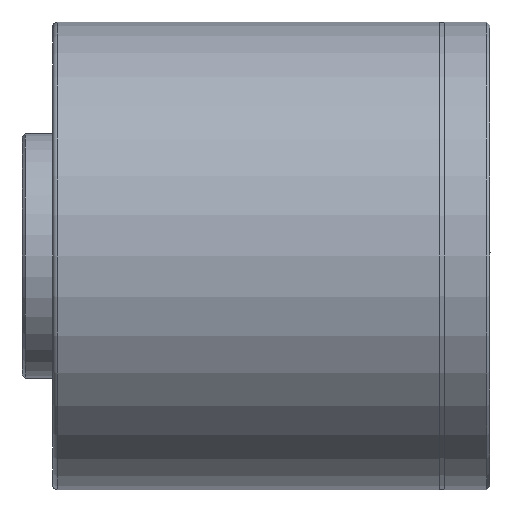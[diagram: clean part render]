
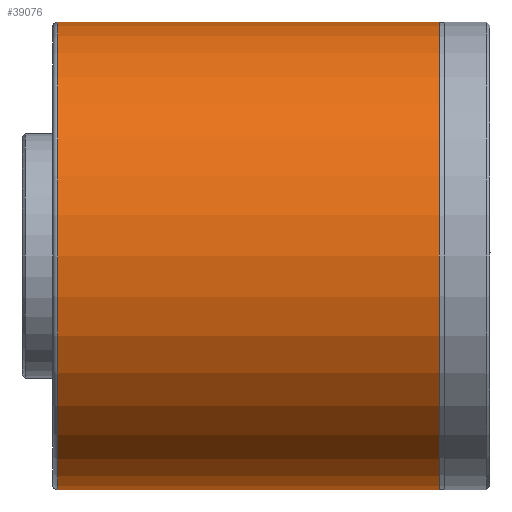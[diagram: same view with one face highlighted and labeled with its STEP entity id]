
A CAD part, left-side view. The second image highlights one B-rep face of the part: STEP entity #39076.
In plain terms, the highlighted cylindrical face has radius 23 mm (diameter 46 mm), a partial arc.
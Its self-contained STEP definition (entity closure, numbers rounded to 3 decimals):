
#2514 = CARTESIAN_POINT ( 'NONE',  ( 0., 23., 0. ) ) ;
#3013 = LINE ( 'NONE', #52733, #8752 ) ;
#3361 = EDGE_CURVE ( 'NONE', #25314, #48359, #52830, .T. ) ;
#5168 = VECTOR ( 'NONE', #35902, 1000. ) ;
#5244 = CARTESIAN_POINT ( 'NONE',  ( 0., -18., 0. ) ) ;
#5247 = AXIS2_PLACEMENT_3D ( 'NONE', #5244, #30523, #30800 ) ;
#6733 = DIRECTION ( 'NONE',  ( 0., -1., 0. ) ) ;
#7255 = ORIENTED_EDGE ( 'NONE', *, *, #27065, .T. ) ;
#8752 = VECTOR ( 'NONE', #23573, 1000. ) ;
#8810 = CIRCLE ( 'NONE', #5247, 23. ) ;
#11402 = EDGE_CURVE ( 'NONE', #53296, #12559, #3013, .T. ) ;
#11685 = FACE_OUTER_BOUND ( 'NONE', #33184, .T. ) ;
#12559 = VERTEX_POINT ( 'NONE', #49917 ) ;
#12644 = ORIENTED_EDGE ( 'NONE', *, *, #40603, .T. ) ;
#15431 = CARTESIAN_POINT ( 'NONE',  ( 0., 19.5, 23. ) ) ;
#18630 = ORIENTED_EDGE ( 'NONE', *, *, #11402, .F. ) ;
#18677 = DIRECTION ( 'NONE',  ( 0., 0., 1. ) ) ;
#20615 = CARTESIAN_POINT ( 'NONE',  ( 0., -18., 23. ) ) ;
#23573 = DIRECTION ( 'NONE',  ( 0., 1., 0. ) ) ;
#25314 = VERTEX_POINT ( 'NONE', #20615 ) ;
#26051 = AXIS2_PLACEMENT_3D ( 'NONE', #2514, #36407, #53330 ) ;
#27065 = EDGE_CURVE ( 'NONE', #53296, #25314, #8810, .T. ) ;
#27609 = AXIS2_PLACEMENT_3D ( 'NONE', #32274, #6733, #18677 ) ;
#28519 = CIRCLE ( 'NONE', #27609, 23. ) ;
#28873 = ORIENTED_EDGE ( 'NONE', *, *, #3361, .T. ) ;
#30523 = DIRECTION ( 'NONE',  ( 0., 1., 0. ) ) ;
#30800 = DIRECTION ( 'NONE',  ( 0., 0., 1. ) ) ;
#32005 = CARTESIAN_POINT ( 'NONE',  ( 0., 23., 23. ) ) ;
#32274 = CARTESIAN_POINT ( 'NONE',  ( 0., 19.5, 0. ) ) ;
#33184 = EDGE_LOOP ( 'NONE', ( #18630, #7255, #28873, #12644 ) ) ;
#35902 = DIRECTION ( 'NONE',  ( 0., 1., 0. ) ) ;
#36407 = DIRECTION ( 'NONE',  ( 0., 1., 0. ) ) ;
#39076 = ADVANCED_FACE ( 'NONE', ( #11685 ), #42378, .T. ) ;
#40603 = EDGE_CURVE ( 'NONE', #48359, #12559, #28519, .T. ) ;
#42378 = CYLINDRICAL_SURFACE ( 'NONE', #26051, 23. ) ;
#48359 = VERTEX_POINT ( 'NONE', #15431 ) ;
#49917 = CARTESIAN_POINT ( 'NONE',  ( 0., 19.5, -23. ) ) ;
#50370 = CARTESIAN_POINT ( 'NONE',  ( 0., -18., -23. ) ) ;
#52733 = CARTESIAN_POINT ( 'NONE',  ( 0., 23., -23. ) ) ;
#52830 = LINE ( 'NONE', #32005, #5168 ) ;
#53296 = VERTEX_POINT ( 'NONE', #50370 ) ;
#53330 = DIRECTION ( 'NONE',  ( 0., 0., 1. ) ) ;
